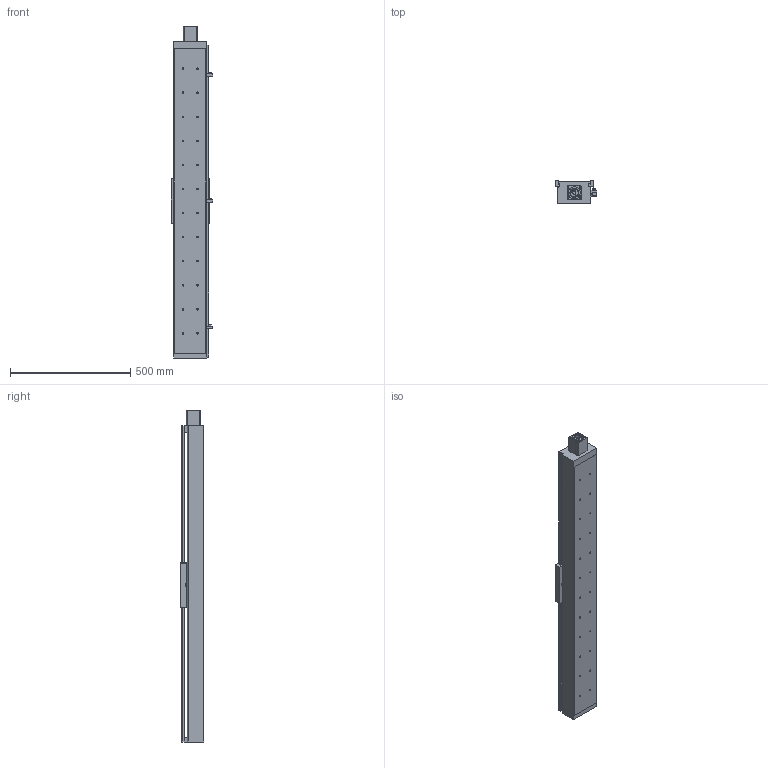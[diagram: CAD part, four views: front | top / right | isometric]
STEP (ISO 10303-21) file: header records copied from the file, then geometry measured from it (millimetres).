
FILE_DESCRIPTION((''),'2;1');
FILE_NAME('E:\libraries\UIA actuator library 2009\standard actuator\UIA136 ball screw 25\UIA136R15NDC-_ _ _-R25_ _, stp file 27Apr16\UIA136R15NDC-1050-R25_ _-M60-P13-C10-S.stp','2016-04-28T17:09:06',('h029'),(''),'Autodesk Inventor 11','Autodesk Inventor 11','');
FILE_SCHEMA(('AUTOMOTIVE_DESIGN { 1 0 10303 214 1 1 1 1 }'));
Length unit declared in the file: millimetre
Products named in the file (10): UIA136R15NDC-1050; UIA136R15NDC-body; motor mount F60; SOH-32C; SOH-32C-3; SOH-32C-1; SOH-32C-2; Carriage; Sensor Switch; sensor rail
Assembly tree (9 placements, depth 3):
  UIA136R15NDC-1050
    UIA136R15NDC-body
    motor mount F60
    SOH-32C
      SOH-32C-3
      SOH-32C-1
      SOH-32C-2
    Carriage
    Sensor Switch
    sensor rail
Bounding box: 174.5 x 98 x 1380 mm (x, y, z)
Volume: 5070711.7 mm3; surface area: 1422732.2 mm2
Topology: 8 solids, 8 shells, 532 faces, 1391 edges, 910 vertices
Faces by surface type: plane 324, bspline 158, cylinder 46, cone 4
Full cylindrical faces by diameter (mm): 2.459 x2, 3.242 x2, 4.5 x2, 7 x4, 7.5 x2, 14 x3, 17 x1, 32 x3, 37 x1, 50.3 x1, 50.5 x1
Entity records: 17380 total; most frequent: CARTESIAN_POINT 5108, ORIENTED_EDGE 2360, DIRECTION 2314, EDGE_CURVE 1180, VERTEX_POINT 846, VECTOR 816, LINE 816, EDGE_LOOP 816
